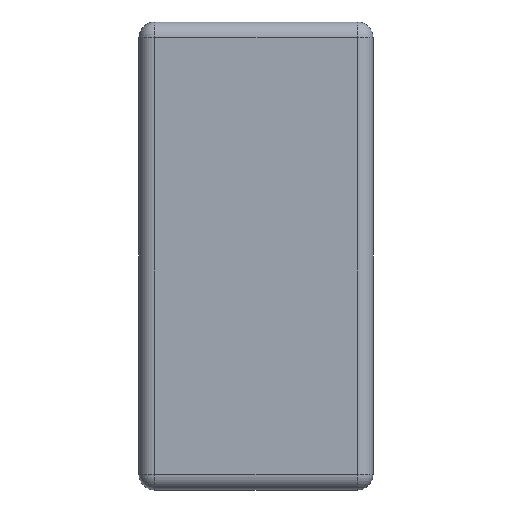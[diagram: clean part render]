
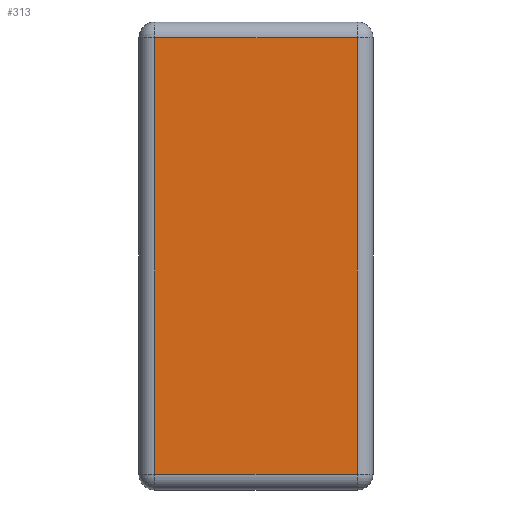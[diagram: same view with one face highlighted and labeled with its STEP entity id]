
A CAD part, top view. The second image highlights one B-rep face of the part: STEP entity #313.
In plain terms, the highlighted planar face has unit normal (0, 0, 1).
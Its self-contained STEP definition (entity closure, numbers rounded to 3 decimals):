
#58 = CARTESIAN_POINT ( 'NONE',  ( 19.5, 42., 3. ) ) ;
#70 = DIRECTION ( 'NONE',  ( 0., -1., 0. ) ) ;
#120 = VECTOR ( 'NONE', #485, 1000. ) ;
#130 = PLANE ( 'NONE',  #489 ) ;
#177 = LINE ( 'NONE', #58, #714 ) ;
#178 = ORIENTED_EDGE ( 'NONE', *, *, #690, .T. ) ;
#209 = VERTEX_POINT ( 'NONE', #218 ) ;
#218 = CARTESIAN_POINT ( 'NONE',  ( -19.5, 42., 3. ) ) ;
#233 = ORIENTED_EDGE ( 'NONE', *, *, #271, .T. ) ;
#234 = LINE ( 'NONE', #638, #579 ) ;
#256 = CARTESIAN_POINT ( 'NONE',  ( -19.5, 42., 3. ) ) ;
#265 = CARTESIAN_POINT ( 'NONE',  ( 19.5, 42., 3. ) ) ;
#271 = EDGE_CURVE ( 'NONE', #331, #454, #177, .T. ) ;
#294 = CARTESIAN_POINT ( 'NONE',  ( 19.5, -42., 3. ) ) ;
#313 = ADVANCED_FACE ( 'NONE', ( #358 ), #130, .T. ) ;
#326 = EDGE_CURVE ( 'NONE', #209, #668, #536, .T. ) ;
#331 = VERTEX_POINT ( 'NONE', #294 ) ;
#335 = CARTESIAN_POINT ( 'NONE',  ( -19.5, -42., 3. ) ) ;
#357 = EDGE_LOOP ( 'NONE', ( #233, #178, #588, #525 ) ) ;
#358 = FACE_OUTER_BOUND ( 'NONE', #357, .T. ) ;
#359 = DIRECTION ( 'NONE',  ( 1., 0., 0. ) ) ;
#365 = DIRECTION ( 'NONE',  ( 0., 0., 1. ) ) ;
#377 = LINE ( 'NONE', #256, #120 ) ;
#390 = EDGE_CURVE ( 'NONE', #668, #331, #234, .T. ) ;
#401 = VECTOR ( 'NONE', #70, 1000. ) ;
#454 = VERTEX_POINT ( 'NONE', #265 ) ;
#469 = CARTESIAN_POINT ( 'NONE',  ( -19.5, -42., 3. ) ) ;
#477 = DIRECTION ( 'NONE',  ( 1., 0., 0. ) ) ;
#485 = DIRECTION ( 'NONE',  ( -1., 0., 0. ) ) ;
#489 = AXIS2_PLACEMENT_3D ( 'NONE', #645, #365, #477 ) ;
#513 = DIRECTION ( 'NONE',  ( 0., 1., 0. ) ) ;
#525 = ORIENTED_EDGE ( 'NONE', *, *, #390, .T. ) ;
#536 = LINE ( 'NONE', #469, #401 ) ;
#579 = VECTOR ( 'NONE', #359, 1000. ) ;
#588 = ORIENTED_EDGE ( 'NONE', *, *, #326, .T. ) ;
#638 = CARTESIAN_POINT ( 'NONE',  ( 19.5, -42., 3. ) ) ;
#645 = CARTESIAN_POINT ( 'NONE',  ( 19.5, 42., 3. ) ) ;
#668 = VERTEX_POINT ( 'NONE', #335 ) ;
#690 = EDGE_CURVE ( 'NONE', #454, #209, #377, .T. ) ;
#714 = VECTOR ( 'NONE', #513, 1000. ) ;
